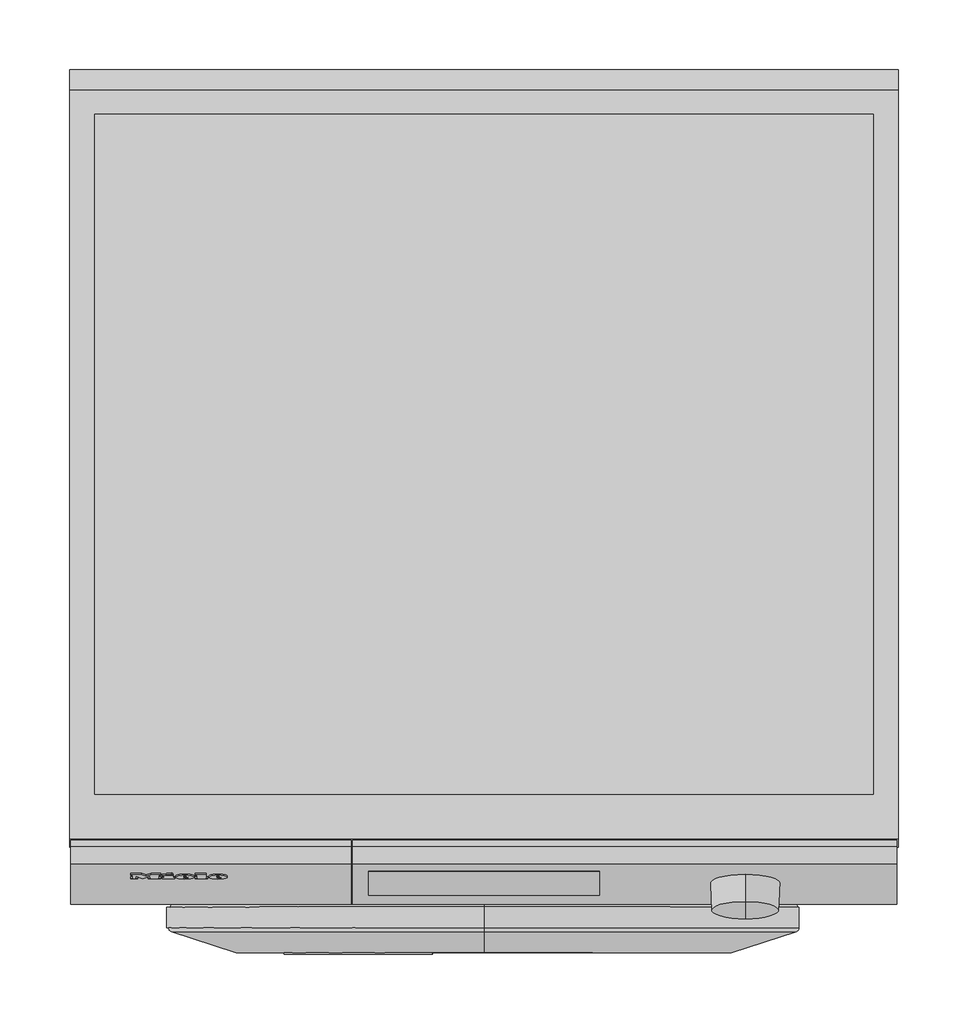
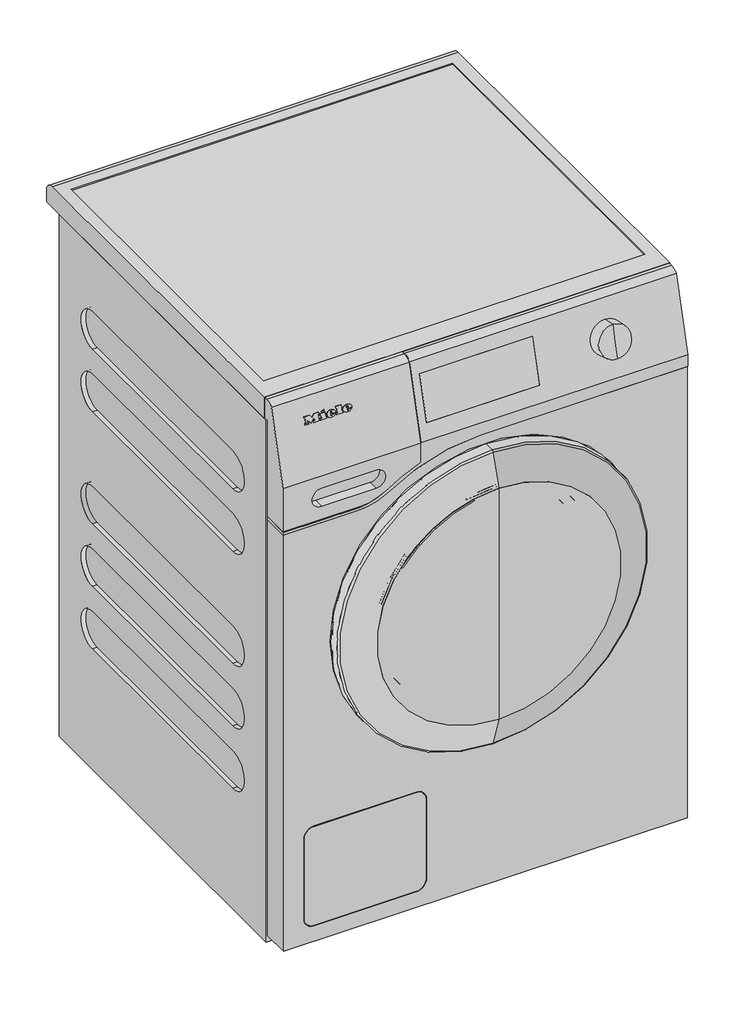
# Not in any storey: 1 proxy.
"""IFC4 building model written with IfcOpenShell, lengths in millimetres."""

from ifc_helpers import new_model, si_unit, origin, place, context, project, spatial, transform, mapped, element, save
from components import specialty_equipment_56a88420, specialty_equipment_e664911a

model = new_model("IFC4")

# Units and contexts
model_context = context("Model", 3, world=origin())
ifc_project = project(units=[si_unit("LENGTHUNIT", "METRE", prefix="MILLI")], contexts=[model_context])

# Site, building
site = spatial("IfcSite", under=ifc_project)
building = spatial("IfcBuilding", under=site)

# Proxy
placement = place(None, origin())
specialty_equipment_shape = specialty_equipment_56a88420(model_context)
specialty_equipment_2_shape = specialty_equipment_e664911a(model_context)
element("IfcBuildingElementProxy", 1, Name="12712330_NL_WEC395WPS_LW : 11SA0341_D_12518830_WSA034WCS_LW", ObjectType="12712330_NL_WEC395WPS_LW : 11SA0341_D_12518830_WSA034WCS_LW", at=placement, inside=building, context=model_context, shape_type="MappedRepresentation", body=[
    mapped(specialty_equipment_shape, transform((0.0, 0.0, 0.0), x_axis=(1.0, 0.0, 0.0), y_axis=(0.0, 1.0, 0.0), z_axis=(0.0, 0.0, 1.0))),
    mapped(specialty_equipment_2_shape, transform((0.0, 0.0, 0.0), x_axis=(1.0, 0.0, 0.0), y_axis=(0.0, 1.0, 0.0), z_axis=(0.0, 0.0, 1.0))),
])

save(model, "model.ifc")
